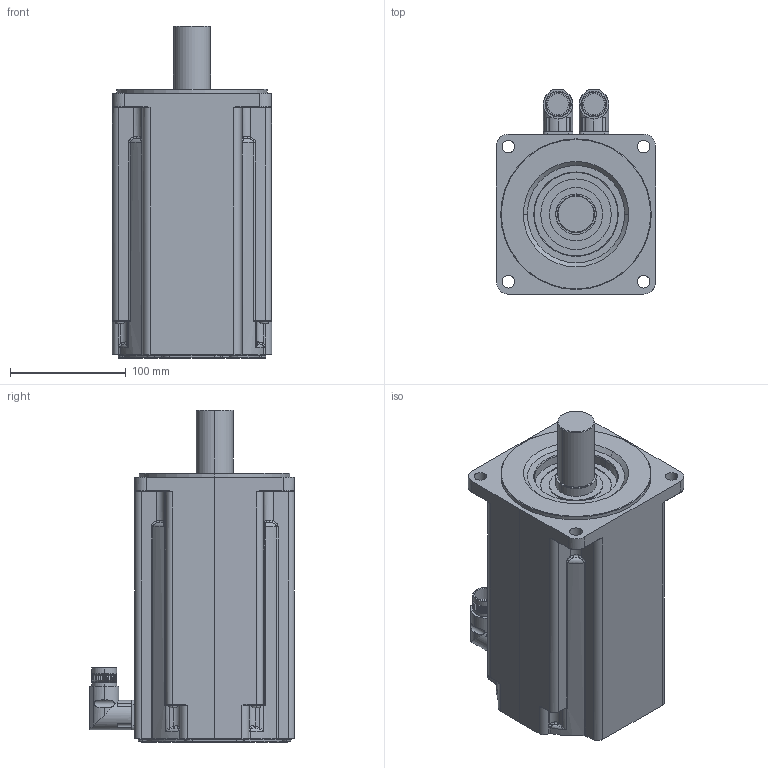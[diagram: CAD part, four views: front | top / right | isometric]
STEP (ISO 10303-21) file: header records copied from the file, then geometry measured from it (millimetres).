
FILE_DESCRIPTION (( 'STEP AP214' ), '1' );
FILE_NAME ('MR7765-Ux-Nxx-G01-A0D-M0-P0.stp', '2009-04-08T13:46:00', ( 'SysAdmin' ), ( 'SolidWorks' ), 'SwSTEP 2.0', 'SolidWorks 2009', '' );
FILE_SCHEMA (( 'AUTOMOTIVE_DESIGN' ));
Length unit declared in the file: millimetre
Products named in the file (1): MR7765-Ux-Nxx-G01-A0D-M0-P0
Bounding box: 138 x 177 x 286.7 mm (x, y, z)
Volume: 3854266.6 mm3; surface area: 176062.5 mm2
Topology: 1 solids, 1 shells, 628 faces, 1528 edges, 904 vertices
Faces by surface type: cylinder 206, cone 118, plane 116, bspline 116, torus 72
Entity records: 29687 total; most frequent: CARTESIAN_POINT 9015, ORIENTED_EDGE 3008, DIRECTION 2808, EDGE_CURVE 1504, AXIS2_PLACEMENT_3D 1207, VERTEX_POINT 904, CIRCLE 694, EDGE_LOOP 662
